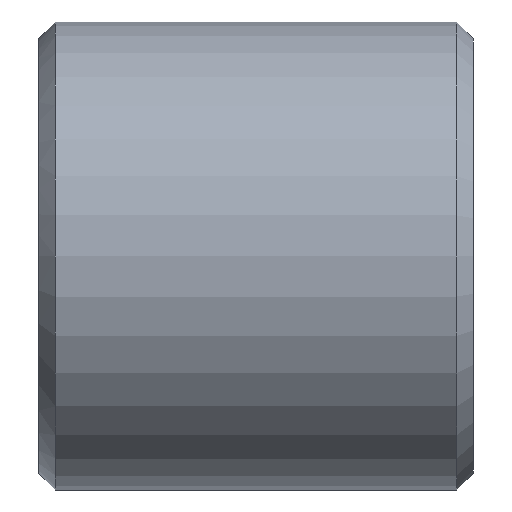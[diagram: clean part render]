
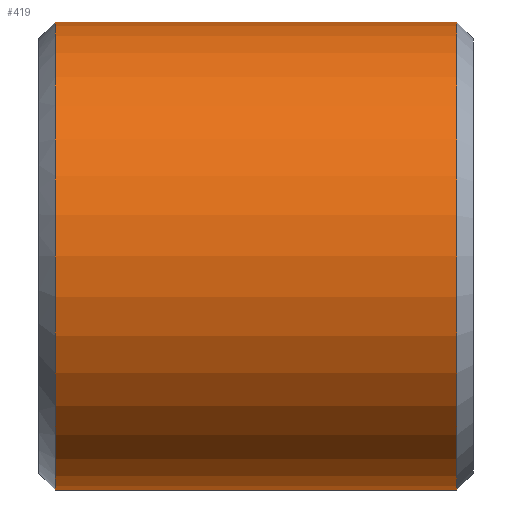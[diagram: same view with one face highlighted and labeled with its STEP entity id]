
A CAD part, front view. The second image highlights one B-rep face of the part: STEP entity #419.
In plain terms, the highlighted cylindrical face has radius 14 mm (diameter 28 mm), a partial arc.
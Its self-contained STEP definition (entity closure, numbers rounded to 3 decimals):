
#231=CARTESIAN_POINT('Vertex',(1.,0.,-14.)) ;
#238=CARTESIAN_POINT('Vertex',(1.,0.,14.)) ;
#267=CARTESIAN_POINT('Axis2P3D Location',(1.,0.,0.)) ;
#271=CARTESIAN_POINT('Vertex',(1.,-14.,0.)) ;
#274=CARTESIAN_POINT('Axis2P3D Location',(1.,0.,0.)) ;
#359=CARTESIAN_POINT('Line Origine',(26.,0.,14.)) ;
#363=CARTESIAN_POINT('Vertex',(25.,0.,14.)) ;
#377=CARTESIAN_POINT('Vertex',(25.,0.,-14.)) ;
#380=CARTESIAN_POINT('Line Origine',(26.,0.,-14.)) ;
#394=CARTESIAN_POINT('Axis2P3D Location',(26.,0.,0.)) ;
#399=CARTESIAN_POINT('Axis2P3D Location',(25.,0.,0.)) ;
#403=CARTESIAN_POINT('Vertex',(25.,-14.,0.)) ;
#406=CARTESIAN_POINT('Axis2P3D Location',(25.,0.,0.)) ;
#268=DIRECTION('Axis2P3D Direction',(1.,0.,-0.)) ;
#275=DIRECTION('Axis2P3D Direction',(1.,0.,-0.)) ;
#360=DIRECTION('Vector Direction',(-1.,0.,0.)) ;
#381=DIRECTION('Vector Direction',(-1.,0.,0.)) ;
#395=DIRECTION('Axis2P3D Direction',(-1.,-0.,-0.)) ;
#396=DIRECTION('Axis2P3D XDirection',(0.,0.,-1.)) ;
#400=DIRECTION('Axis2P3D Direction',(-1.,-0.,-0.)) ;
#407=DIRECTION('Axis2P3D Direction',(-1.,-0.,-0.)) ;
#269=AXIS2_PLACEMENT_3D('Circle Axis2P3D',#267,#268,$) ;
#276=AXIS2_PLACEMENT_3D('Circle Axis2P3D',#274,#275,$) ;
#397=AXIS2_PLACEMENT_3D('Cylinder Axis2P3D',#394,#395,#396) ;
#401=AXIS2_PLACEMENT_3D('Circle Axis2P3D',#399,#400,$) ;
#408=AXIS2_PLACEMENT_3D('Circle Axis2P3D',#406,#407,$) ;
#412=ORIENTED_EDGE('',*,*,#384,.T.) ;
#413=ORIENTED_EDGE('',*,*,#405,.F.) ;
#414=ORIENTED_EDGE('',*,*,#410,.F.) ;
#415=ORIENTED_EDGE('',*,*,#365,.T.) ;
#416=ORIENTED_EDGE('',*,*,#278,.T.) ;
#417=ORIENTED_EDGE('',*,*,#273,.T.) ;
#361=VECTOR('Line Direction',#360,1.) ;
#382=VECTOR('Line Direction',#381,1.) ;
#419=ADVANCED_FACE('352-20X26',(#418),#398,.T.) ;
#270=CIRCLE('generated circle',#269,14.) ;
#277=CIRCLE('generated circle',#276,14.) ;
#402=CIRCLE('generated circle',#401,14.) ;
#409=CIRCLE('generated circle',#408,14.) ;
#398=CYLINDRICAL_SURFACE('generated cylinder',#397,14.) ;
#273=EDGE_CURVE('',#272,#232,#270,.T.) ;
#278=EDGE_CURVE('',#239,#272,#277,.T.) ;
#365=EDGE_CURVE('',#364,#239,#362,.T.) ;
#384=EDGE_CURVE('',#232,#378,#383,.F.) ;
#405=EDGE_CURVE('',#404,#378,#402,.F.) ;
#410=EDGE_CURVE('',#364,#404,#409,.F.) ;
#411=EDGE_LOOP('',(#412,#413,#414,#415,#416,#417)) ;
#418=FACE_OUTER_BOUND('',#411,.T.) ;
#362=LINE('Line',#359,#361) ;
#383=LINE('Line',#380,#382) ;
#232=VERTEX_POINT('',#231) ;
#239=VERTEX_POINT('',#238) ;
#272=VERTEX_POINT('',#271) ;
#364=VERTEX_POINT('',#363) ;
#378=VERTEX_POINT('',#377) ;
#404=VERTEX_POINT('',#403) ;
